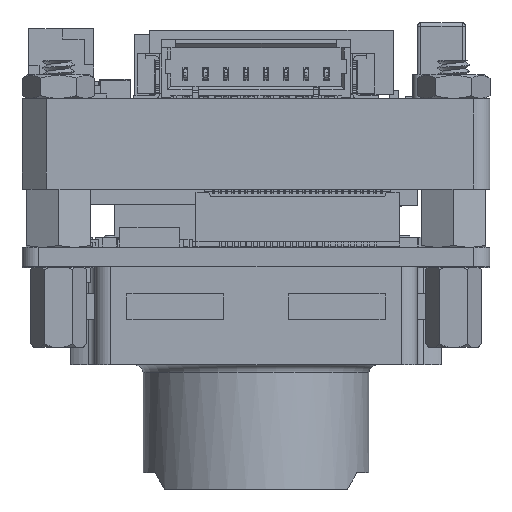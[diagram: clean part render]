
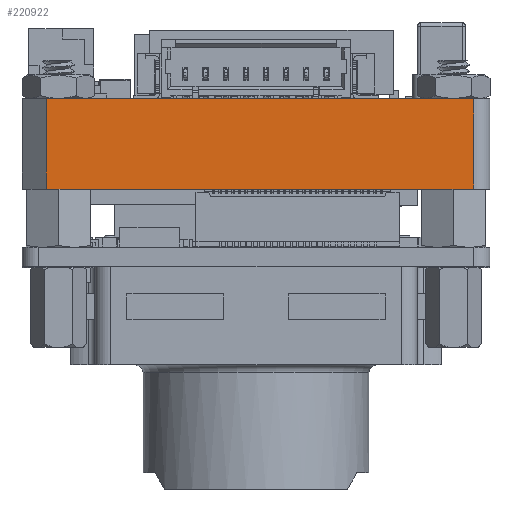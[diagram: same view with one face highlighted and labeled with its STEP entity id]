
A CAD part, front view. The second image highlights one B-rep face of the part: STEP entity #220922.
In plain terms, the highlighted planar face has unit normal (0, -1, 0).
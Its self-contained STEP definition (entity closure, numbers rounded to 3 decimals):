
#66544=DIRECTION('',(-1.,0.,0.));
#66545=VECTOR('',#66544,26.5);
#66546=CARTESIAN_POINT('',(13.5,-14.5,10.4));
#66547=LINE('',#66546,#66545);
#69573=DIRECTION('',(1.,0.,0.));
#69574=VECTOR('',#69573,0.206);
#69575=CARTESIAN_POINT('',(-12.353,-14.5,4.8));
#69576=LINE('',#69575,#69574);
#69577=DIRECTION('',(-1.,0.,0.));
#69578=VECTOR('',#69577,0.647);
#69579=CARTESIAN_POINT('',(-12.353,-14.5,4.8));
#69580=LINE('',#69579,#69578);
#69581=DIRECTION('',(0.,0.,1.));
#69582=VECTOR('',#69581,5.6);
#69583=CARTESIAN_POINT('',(-13.,-14.5,4.8));
#69584=LINE('',#69583,#69582);
#69585=DIRECTION('',(0.,0.,-1.));
#69586=VECTOR('',#69585,1.2);
#69587=CARTESIAN_POINT('',(13.5,-14.5,10.4));
#69588=LINE('',#69587,#69586);
#69589=DIRECTION('',(0.,0.,-1.));
#69590=VECTOR('',#69589,4.4);
#69591=CARTESIAN_POINT('',(13.5,-14.5,9.2));
#69592=LINE('',#69591,#69590);
#69593=DIRECTION('',(-1.,0.,0.));
#69594=VECTOR('',#69593,1.147);
#69595=CARTESIAN_POINT('',(13.5,-14.5,4.8));
#69596=LINE('',#69595,#69594);
#69597=DIRECTION('',(-1.,0.,0.));
#69598=VECTOR('',#69597,0.206);
#69599=CARTESIAN_POINT('',(12.353,-14.5,4.8));
#69600=LINE('',#69599,#69598);
#69601=DIRECTION('',(-1.,0.,0.));
#69602=VECTOR('',#69601,24.294);
#69603=CARTESIAN_POINT('',(12.147,-14.5,4.8));
#69604=LINE('',#69603,#69602);
#106730=CARTESIAN_POINT('',(13.5,-14.5,4.8));
#106732=VERTEX_POINT('',#106730);
#113413=CARTESIAN_POINT('',(13.5,-14.5,10.4));
#113414=VERTEX_POINT('',#113413);
#113415=CARTESIAN_POINT('',(-13.,-14.5,10.4));
#113416=VERTEX_POINT('',#113415);
#122358=CARTESIAN_POINT('',(13.5,-14.5,9.2));
#122359=VERTEX_POINT('',#122358);
#122366=CARTESIAN_POINT('',(-13.,-14.5,4.8));
#122367=VERTEX_POINT('',#122366);
#122491=CARTESIAN_POINT('',(12.147,-14.5,4.8));
#122493=VERTEX_POINT('',#122491);
#122502=CARTESIAN_POINT('',(12.353,-14.5,4.8));
#122503=VERTEX_POINT('',#122502);
#122644=CARTESIAN_POINT('',(-12.353,-14.5,4.8));
#122646=VERTEX_POINT('',#122644);
#122657=CARTESIAN_POINT('',(-12.147,-14.5,4.8));
#122658=VERTEX_POINT('',#122657);
#220904=CARTESIAN_POINT('',(0.25,-14.5,5.4));
#220905=DIRECTION('',(0.,1.,0.));
#220906=DIRECTION('',(1.,0.,0.));
#220907=AXIS2_PLACEMENT_3D('',#220904,#220905,#220906);
#220908=PLANE('',#220907);
#220910=ORIENTED_EDGE('',*,*,#220909,.F.);
#220911=ORIENTED_EDGE('',*,*,#123975,.T.);
#220913=ORIENTED_EDGE('',*,*,#220912,.T.);
#220914=ORIENTED_EDGE('',*,*,#216570,.F.);
#220915=ORIENTED_EDGE('',*,*,#220896,.T.);
#220916=ORIENTED_EDGE('',*,*,#220894,.T.);
#220917=ORIENTED_EDGE('',*,*,#124009,.T.);
#220918=ORIENTED_EDGE('',*,*,#215596,.T.);
#220919=ORIENTED_EDGE('',*,*,#123995,.T.);
#220920=EDGE_LOOP('',(#220910,#220911,#220913,#220914,#220915,#220916,#220917,
#220918,#220919));
#220921=FACE_OUTER_BOUND('',#220920,.F.);
#220922=ADVANCED_FACE('',(#220921),#220908,.F.);
#123975=EDGE_CURVE('',#122646,#122367,#69580,.T.);
#123995=EDGE_CURVE('',#122493,#122658,#69604,.T.);
#124009=EDGE_CURVE('',#106732,#122503,#69596,.T.);
#215596=EDGE_CURVE('',#122503,#122493,#69600,.T.);
#216570=EDGE_CURVE('',#113414,#113416,#66547,.T.);
#220894=EDGE_CURVE('',#122359,#106732,#69592,.T.);
#220896=EDGE_CURVE('',#113414,#122359,#69588,.T.);
#220909=EDGE_CURVE('',#122646,#122658,#69576,.T.);
#220912=EDGE_CURVE('',#122367,#113416,#69584,.T.);
